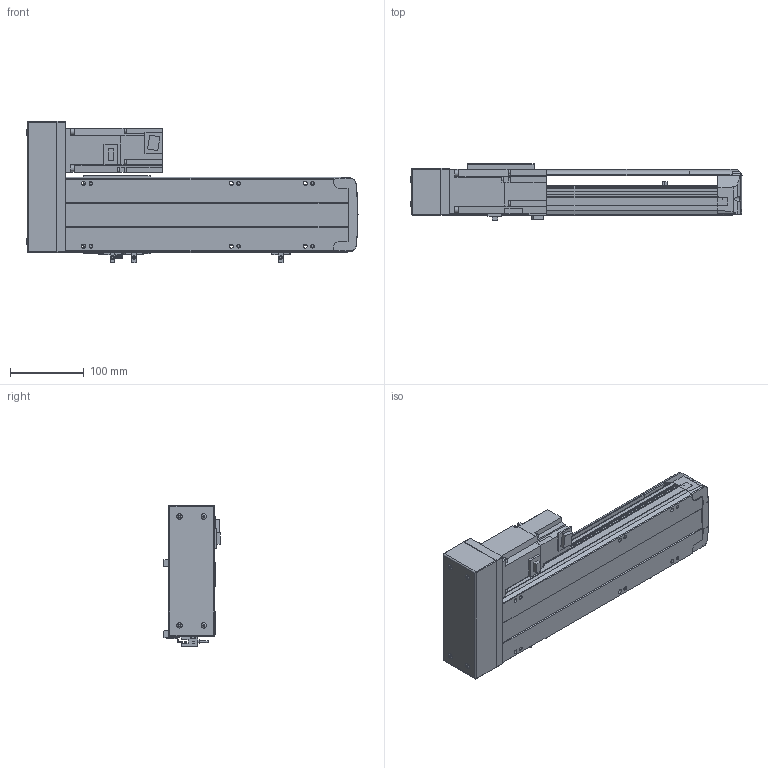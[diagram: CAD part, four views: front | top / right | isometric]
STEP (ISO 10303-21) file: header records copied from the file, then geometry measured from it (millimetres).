
FILE_DESCRIPTION(/* description */ ('STEP AP214'),/* implementation_level */ '2;1');
FILE_NAME(/* name */ 'PSS120-L10-S200-BL-T40-C1-N(0)',/* time_stamp */ '2022-06-06T02:28:04+02:00',/* author */ ('License CC BY-ND 4.0'),/* organization */ ('CADENAS'),/* preprocessor_version */ 'ST-DEVELOPER v18.102',/* originating_system */ 'PARTsolutions',/* authorisation */ ' ');
FILE_SCHEMA (('AUTOMOTIVE_DESIGN {1 0 10303 214 3 1 1}'));
Length unit declared in the file: millimetre
Products named in the file (8): PSS120-L10-S200-BL-T40-C1-N(0); PSS120-S200-BL-N_S; T40-p1; PSS120BL-N_h; PSS120-N_sensor; PSS120-BL-C1-N_sl; PSS120-N_Q; PSS120-S200-BL-C1-N_body
Assembly tree (9 placements, depth 2):
  PSS120-L10-S200-BL-T40-C1-N(0)
    PSS120-S200-BL-N_S
    T40-p1
    PSS120BL-N_h
    PSS120-N_sensor  x3
    PSS120-BL-C1-N_sl
    PSS120-N_Q
    PSS120-S200-BL-C1-N_body
Bounding box: 449.35 x 76.8 x 191.2 mm (x, y, z)
Volume: 2298845.5 mm3; surface area: 384830.5 mm2
Topology: 9 solids, 9 shells, 800 faces, 2149 edges, 1422 vertices
Faces by surface type: plane 577, cylinder 205, cone 14, sphere 4
Full cylindrical faces by diameter (mm): 2.8 x3, 4 x4, 4.134 x10, 4.4 x2, 4.5 x4, 4.6 x3, 5 x6, 5.5 x13, 7 x2, 7.4 x4, 8 x4, 8.5 x10, 14 x1, 28 x1, 32 x2, 50 x1
Entity records: 21499 total; most frequent: CARTESIAN_POINT 3865, DIRECTION 3581, ORIENTED_EDGE 3526, EDGE_CURVE 1763, LINE 1293, VECTOR 1293, VERTEX_POINT 1212, AXIS2_PLACEMENT_3D 1144
